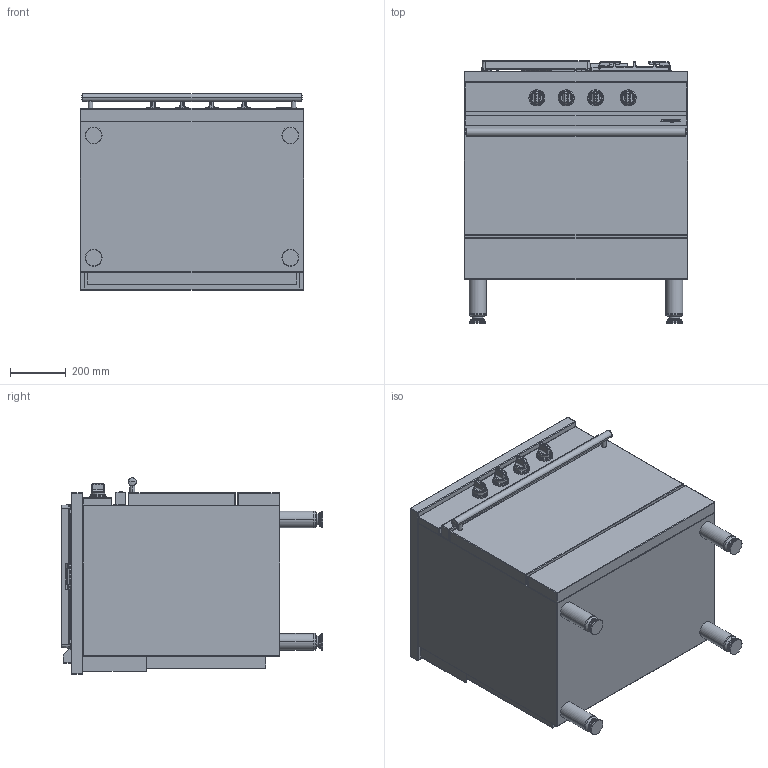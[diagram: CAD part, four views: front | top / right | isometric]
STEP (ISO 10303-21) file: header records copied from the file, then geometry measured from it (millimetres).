
FILE_DESCRIPTION((''),'2;1');
FILE_NAME('CG831P_EXPORT_STEP_ASM','2017-11-22T',('r.avril'),(''),'PRO/ENGINEER BY PARAMETRIC TECHNOLOGY CORPORATION, 2014200','PRO/ENGINEER BY PARAMETRIC TECHNOLOGY CORPORATION, 2014200','');
FILE_SCHEMA(('AP203_CONFIGURATION_CONTROLLED_3D_DESIGN_OF_MECHANICAL_PARTS_AND_ASSEMBLIES_MIM_LF { 1 0 10303 403 2 1 2 }'));
Products named in the file (14): FOURNEAUX_AMB_800_EXPORT_STEP; TABLE_800_CLASSIQUE_3F; 5KW; 1_5KW; 3KW; 65062008; 65062012; 65149005; 90000549_ASM; 6537024; 90000487_ASM; TABLE_800_TRADITION_ASM; MANETTE_AMB_EXPORT_STEP; CG831P_EXPORT_STEP_ASM
Assembly tree (23 placements, depth 4):
  CG831P_EXPORT_STEP_ASM
    FOURNEAUX_AMB_800_EXPORT_STEP
    TABLE_800_TRADITION_ASM
      TABLE_800_CLASSIQUE_3F
      5KW
      1_5KW
      3KW
      90000549_ASM
        65062008
        65062012
        65149005  x4
      90000487_ASM
        6537024
        65149005  x4
    MANETTE_AMB_EXPORT_STEP  x4
Bounding box: 800 x 937 x 703 mm (x, y, z)
Volume: 366649594.8 mm3; surface area: 6697381.1 mm2
Topology: 34 solids, 52 shells, 3899 faces, 10549 edges, 7099 vertices
Faces by surface type: plane 1840, cylinder 901, bspline 616, sphere 178, torus 174, cone 170, extrusion 20
Entity records: 166212 total; most frequent: CARTESIAN_POINT 47772, ORIENTED_EDGE 18208, DIRECTION 16468, EDGE_CURVE 9329, PRESENTATION_STYLE_ASSIGNMENT 8768, STYLED_ITEM 8768, CURVE_STYLE 8562, VECTOR 6310
